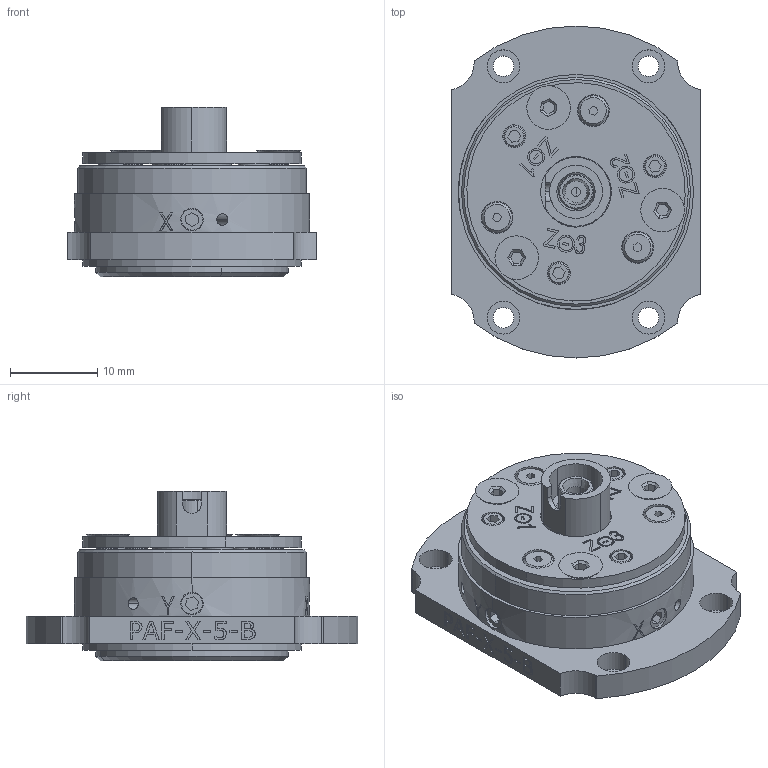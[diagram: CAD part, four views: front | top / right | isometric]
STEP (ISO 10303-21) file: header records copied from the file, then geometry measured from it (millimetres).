
FILE_DESCRIPTION (( 'STEP AP203' ), '1' );
FILE_NAME ('16138-E0W.STEP', '2016-11-02T12:32:47', ( 'admin' ), ( '' ), 'SwSTEP 2.0', 'SolidWorks 2016', '' );
FILE_SCHEMA (( 'CONFIG_CONTROL_DESIGN' ));
Length unit declared in the file: inch
Products named in the file (1): 16138-E0W
Bounding box: 28.57 x 38.1 x 19.43 mm (x, y, z)
Volume: 7684.6 mm3; surface area: 8846.1 mm2
Topology: 20 solids, 20 shells, 917 faces, 2296 edges, 1492 vertices
Faces by surface type: plane 444, cylinder 200, bspline 189, cone 72, sphere 8, torus 4
Entity records: 35644 total; most frequent: CARTESIAN_POINT 14599, ORIENTED_EDGE 4564, DIRECTION 3758, EDGE_CURVE 2282, VERTEX_POINT 1492, VECTOR 1334, LINE 1334, AXIS2_PLACEMENT_3D 1212
